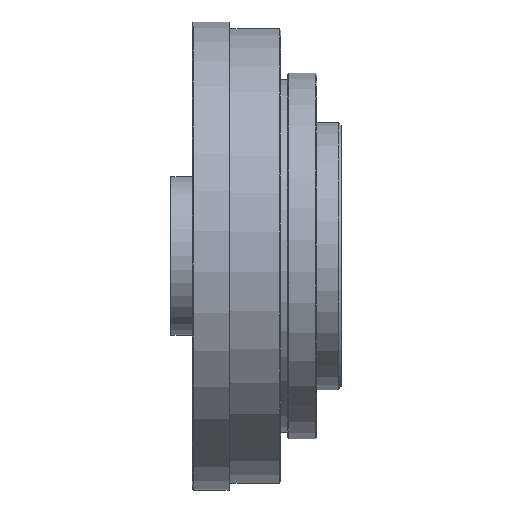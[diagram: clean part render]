
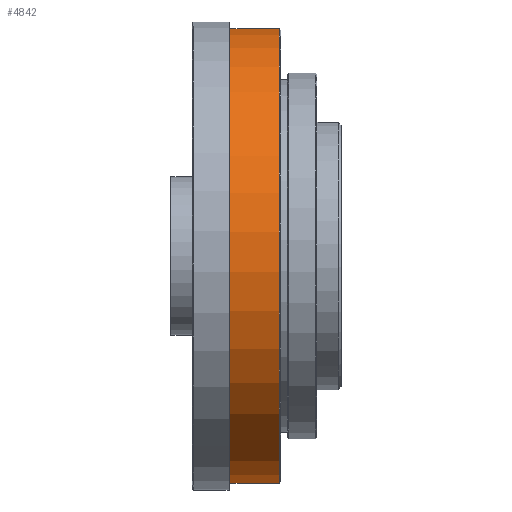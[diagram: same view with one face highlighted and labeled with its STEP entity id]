
A CAD part, front view. The second image highlights one B-rep face of the part: STEP entity #4842.
In plain terms, the highlighted cylindrical face has radius 85 mm (diameter 170 mm), a full revolution.
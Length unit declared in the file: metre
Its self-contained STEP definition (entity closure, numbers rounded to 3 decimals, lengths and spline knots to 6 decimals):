
#682 = CIRCLE ( 'NONE', #59405, 0.085 ) ;
#1831 = CARTESIAN_POINT ( 'NONE',  ( -0.02795, 0., 0. ) ) ;
#3536 = VERTEX_POINT ( 'NONE', #30982 ) ;
#4842 = ADVANCED_FACE ( 'NONE', ( #8958, #9264 ), #18928, .T. ) ;
#6872 = CARTESIAN_POINT ( 'NONE',  ( -0.00495, 0., 0. ) ) ;
#8958 = FACE_OUTER_BOUND ( 'NONE', #10135, .T. ) ;
#9264 = FACE_OUTER_BOUND ( 'NONE', #34604, .T. ) ;
#10135 = EDGE_LOOP ( 'NONE', ( #36437 ) ) ;
#13131 = AXIS2_PLACEMENT_3D ( 'NONE', #6872, #22118, #17130 ) ;
#13624 = CARTESIAN_POINT ( 'NONE',  ( -0.02845, 0., 0. ) ) ;
#17130 = DIRECTION ( 'NONE',  ( 0., -0.069, 0.998 ) ) ;
#18928 = CYLINDRICAL_SURFACE ( 'NONE', #59292, 0.085 ) ;
#20518 = DIRECTION ( 'NONE',  ( 0., -0.069, 0.998 ) ) ;
#22118 = DIRECTION ( 'NONE',  ( -1., 0., 0. ) ) ;
#23351 = EDGE_CURVE ( 'NONE', #30848, #30848, #682, .T. ) ;
#25106 = CIRCLE ( 'NONE', #13131, 0.085 ) ;
#26183 = CARTESIAN_POINT ( 'NONE',  ( -0.02795, -0.005868, 0.084797 ) ) ;
#27976 = DIRECTION ( 'NONE',  ( -1., 0., 0. ) ) ;
#30848 = VERTEX_POINT ( 'NONE', #26183 ) ;
#30982 = CARTESIAN_POINT ( 'NONE',  ( -0.00495, -0.005868, 0.084797 ) ) ;
#34604 = EDGE_LOOP ( 'NONE', ( #44389 ) ) ;
#36437 = ORIENTED_EDGE ( 'NONE', *, *, #23351, .T. ) ;
#44389 = ORIENTED_EDGE ( 'NONE', *, *, #59237, .T. ) ;
#47011 = DIRECTION ( 'NONE',  ( 0., -0.069, 0.998 ) ) ;
#53266 = DIRECTION ( 'NONE',  ( 1., 0., 0. ) ) ;
#59237 = EDGE_CURVE ( 'NONE', #3536, #3536, #25106, .T. ) ;
#59292 = AXIS2_PLACEMENT_3D ( 'NONE', #13624, #27976, #47011 ) ;
#59405 = AXIS2_PLACEMENT_3D ( 'NONE', #1831, #53266, #20518 ) ;
